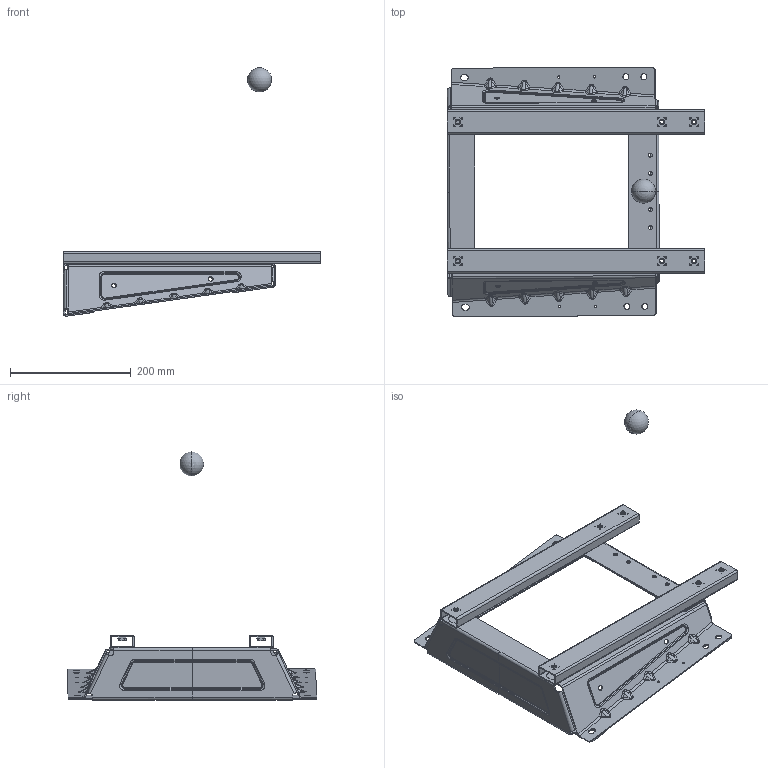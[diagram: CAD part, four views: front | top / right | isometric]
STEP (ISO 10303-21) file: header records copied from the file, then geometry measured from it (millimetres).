
FILE_DESCRIPTION(('CATIA V5 STEP Exchange'),'2;1');
FILE_NAME('F:\重卡项目整理未完待续\03-一汽项目\长春J6G3.0+自适应\3D\J6P-3.0-地支架.stp','2023-07-25T06:04:49+00:00',('none'),('none'),'CATIA Version 5 Release 20 GA (IN-10)','CATIA V5 STEP AP214','none');
FILE_SCHEMA(('AUTOMOTIVE_DESIGN { 1 0 10303 214 1 1 1 1 }'));
Length unit declared in the file: millimetre
Products named in the file (10): J6P-3.0; 11; SHT0015962; SHT0014478; SHT0014479; SHT0014481; SHT0014480; 000; 111; BFA0000518
Assembly tree (12 placements, depth 4):
  J6P-3.0
    11
    SHT0015962
      SHT0014478
      SHT0014479
      SHT0014481
      SHT0014480
      000  x2
        111
        BFA0000518
Bounding box: 426.66 x 412.25 x 411.06 mm (x, y, z)
Volume: 536214.9 mm3; surface area: 553844.3 mm2
Topology: 12 solids, 13 shells, 1344 faces, 3608 edges, 2211 vertices
Faces by surface type: cylinder 618, plane 398, cone 120, sphere 82, bspline 54, torus 48, extrusion 24
Entity records: 38576 total; most frequent: CARTESIAN_POINT 15935, ORIENTED_EDGE 5100, DIRECTION 3720, EDGE_CURVE 2550, AXIS2_PLACEMENT_3D 1674, VERTEX_POINT 1574, VECTOR 1113, LINE 1109
